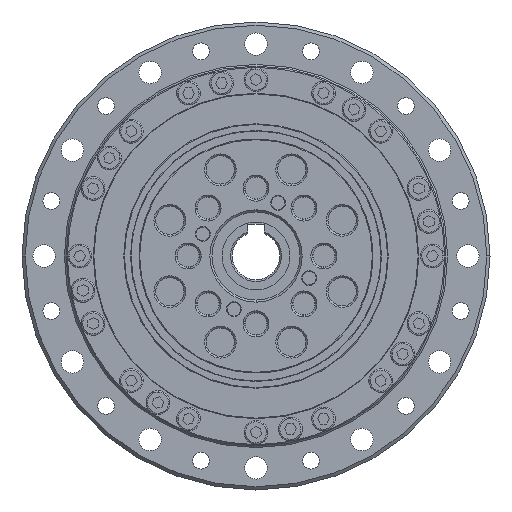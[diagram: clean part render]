
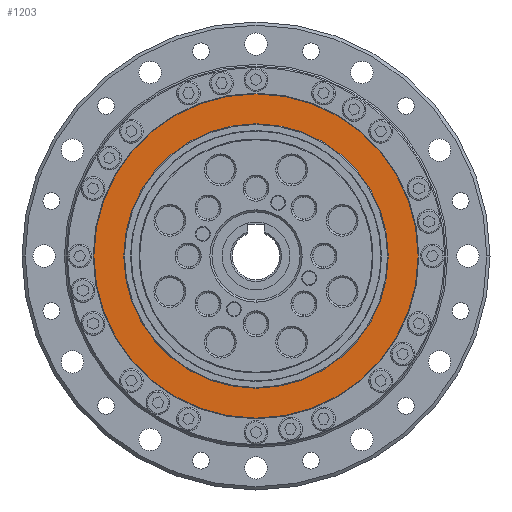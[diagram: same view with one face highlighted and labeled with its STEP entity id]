
A CAD part, left-side view. The second image highlights one B-rep face of the part: STEP entity #1203.
In plain terms, the highlighted planar face has unit normal (-1, 0, 0).
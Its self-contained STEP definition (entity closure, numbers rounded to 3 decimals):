
#1203=ADVANCED_FACE('NONE',(#2782,#2783),#2784,.T.);
#2782=FACE_OUTER_BOUND('',#5859,.T.);
#2783=FACE_BOUND('',#5860,.T.);
#2784=PLANE('',#5861);
#5859=EDGE_LOOP('',(#9201,#9202));
#5860=EDGE_LOOP('',(#9203,#9204));
#5861=AXIS2_PLACEMENT_3D('',#9205,#9206,#9207);
#9201=ORIENTED_EDGE('',*,*,#12405,.F.);
#9202=ORIENTED_EDGE('',*,*,#12934,.F.);
#9203=ORIENTED_EDGE('',*,*,#12423,.T.);
#9204=ORIENTED_EDGE('',*,*,#12986,.T.);
#9205=CARTESIAN_POINT('',(-56.0,0.,-48.0));
#9206=DIRECTION('',(-1.0,0.,0.));
#9207=DIRECTION('',(0.,-1.0,0.0));
#12405=EDGE_CURVE('NONE',#14743,#14744,#14745,.T.);
#12423=EDGE_CURVE('NONE',#14775,#14773,#14776,.T.);
#12934=EDGE_CURVE('NONE',#14744,#14743,#15484,.T.);
#12986=EDGE_CURVE('NONE',#14773,#14775,#15536,.T.);
#14743=VERTEX_POINT('NONE',#18240);
#14744=VERTEX_POINT('NONE',#18241);
#14745=CIRCLE('',#18242,47.8);
#14773=VERTEX_POINT('NONE',#18276);
#14775=VERTEX_POINT('NONE',#18279);
#14776=CIRCLE('',#18280,39.0);
#15484=CIRCLE('',#19135,47.8);
#15536=CIRCLE('',#19427,39.0);
#18240=CARTESIAN_POINT('',(-56.,47.8,0.0));
#18241=CARTESIAN_POINT('',(-56.,-47.8,0.));
#18242=AXIS2_PLACEMENT_3D('',#22192,#22193,#22194);
#18276=CARTESIAN_POINT('',(-56.0,-39.0,0.));
#18279=CARTESIAN_POINT('',(-56.0,39.0,0.0));
#18280=AXIS2_PLACEMENT_3D('',#22223,#22224,#22225);
#19135=AXIS2_PLACEMENT_3D('',#23038,#23039,#23040);
#19427=AXIS2_PLACEMENT_3D('',#23044,#23045,#23046);
#22192=CARTESIAN_POINT('',(-56.,0.0,0.0));
#22193=DIRECTION('',(1.0,0.0,0.0));
#22194=DIRECTION('',(0.0,1.0,0.0));
#22223=CARTESIAN_POINT('',(-56.0,0.0,0.0));
#22224=DIRECTION('',(1.0,0.0,0.0));
#22225=DIRECTION('',(0.0,1.0,0.0));
#23038=CARTESIAN_POINT('',(-56.,0.0,0.0));
#23039=DIRECTION('',(1.0,0.0,0.0));
#23040=DIRECTION('',(0.0,1.0,0.0));
#23044=CARTESIAN_POINT('',(-56.0,0.0,0.0));
#23045=DIRECTION('',(1.0,0.0,0.0));
#23046=DIRECTION('',(0.0,1.0,0.0));
